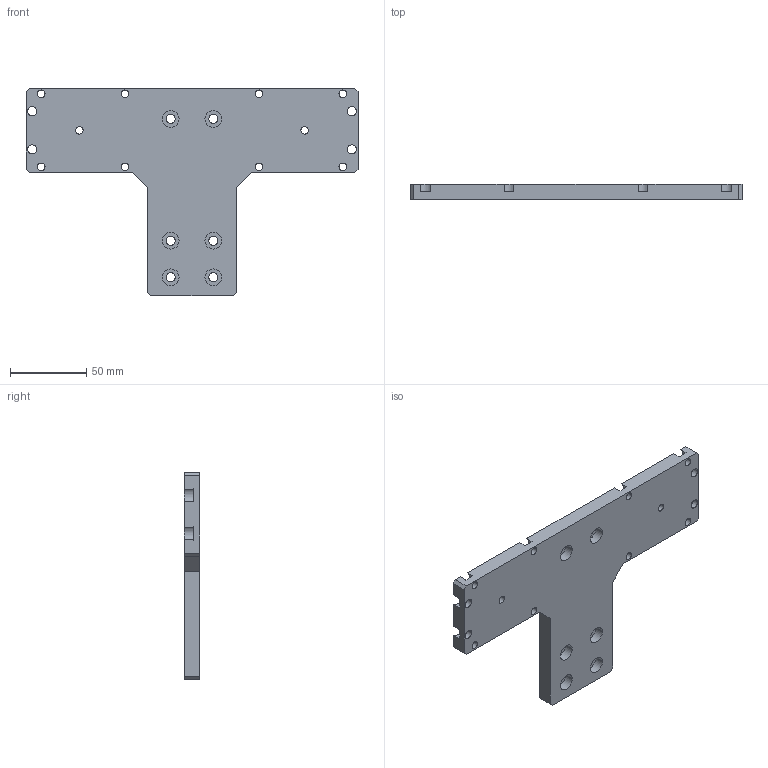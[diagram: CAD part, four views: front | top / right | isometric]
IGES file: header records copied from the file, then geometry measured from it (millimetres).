
Start section:  PTC IGES file: k60-k60m-st.igs
Global section: file name: k60-k60m-st.igs; native system: Pro/ENGINEER by Parametric Technology Corporation; preprocessor: 2008230; author: Owner; organization: Unknown; date: 20121211.150239; units: millimetre
Bounding box: 218 x 10 x 136 mm (x, y, z)
Surface area: 43671.5 mm2 (no closed solid volume)
Topology: 0 solids, 0 shells, 106 faces, 576 edges, 576 vertices
Faces by surface type: revolution 68, bspline 38
